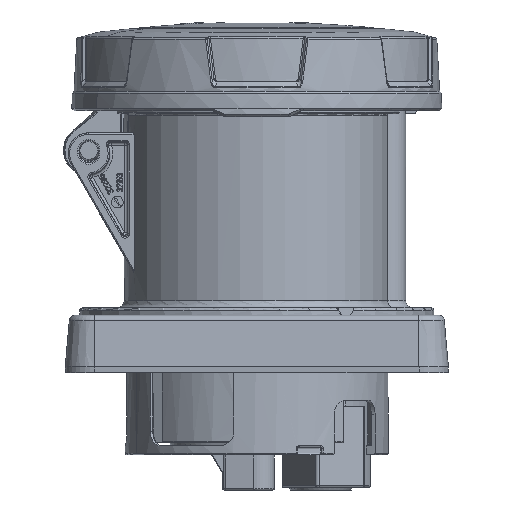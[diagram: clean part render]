
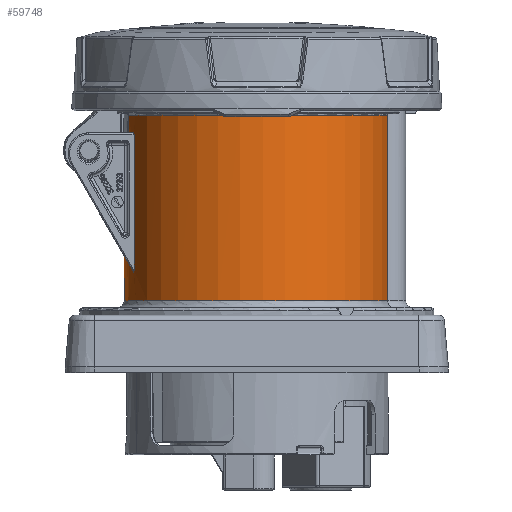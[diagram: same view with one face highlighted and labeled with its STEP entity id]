
A CAD part, left-side view. The second image highlights one B-rep face of the part: STEP entity #59748.
In plain terms, the highlighted cylindrical face has radius 45 mm (diameter 90 mm), a partial arc.
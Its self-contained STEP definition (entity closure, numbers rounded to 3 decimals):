
#312=DIRECTION('',(0.,0.,1.));
#313=VECTOR('',#312,6.);
#314=CARTESIAN_POINT('',(13.2,43.02,64.9));
#315=LINE('4296',#314,#313);
#320=DIRECTION('',(0.,0.,1.));
#321=VECTOR('',#320,62.9);
#322=CARTESIAN_POINT('',(-7.37,-44.392,8.));
#323=LINE('3004',#322,#321);
#327=DIRECTION('',(0.,0.,1.));
#328=VECTOR('',#327,62.9);
#329=CARTESIAN_POINT('',(7.37,-44.392,8.));
#330=LINE('3005',#329,#328);
#354=CARTESIAN_POINT('',(0.,0.,70.9));
#355=DIRECTION('',(0.,0.,-1.));
#356=DIRECTION('',(0.293,0.956,0.));
#357=AXIS2_PLACEMENT_3D('',#354,#355,#356);
#362=CARTESIAN_POINT('',(7.37,-44.392,70.9));
#13967=CARTESIAN_POINT('',(-7.37,-44.392,70.9));
#13972=CARTESIAN_POINT('',(0.,0.,70.9));
#13973=DIRECTION('',(0.,0.,-1.));
#13974=DIRECTION('',(-0.164,-0.986,0.));
#13975=AXIS2_PLACEMENT_3D('',#13972,#13973,#13974);
#14000=DIRECTION('',(0.,0.,-1.));
#14001=VECTOR('',#14000,6.);
#14002=CARTESIAN_POINT('',(-11.2,43.584,70.9));
#14003=LINE('3003',#14002,#14001);
#14030=CARTESIAN_POINT('',(0.,0.,64.9));
#14031=DIRECTION('',(0.,0.,1.));
#14032=DIRECTION('',(-0.249,0.969,0.));
#14033=AXIS2_PLACEMENT_3D('',#14030,#14031,#14032);
#14267=CARTESIAN_POINT('',(-16.5,41.866,17.687));
#14268=CARTESIAN_POINT('',(-13.75,42.95,19.564));
#14269=CARTESIAN_POINT('',(-8.25,44.5,22.249));
#14270=CARTESIAN_POINT('',(0.,45.25,23.549));
#14271=CARTESIAN_POINT('',(8.25,44.5,22.249));
#14272=CARTESIAN_POINT('',(13.75,42.95,19.564));
#14273=CARTESIAN_POINT('',(16.5,41.866,17.687));
#14292=CARTESIAN_POINT('',(16.5,41.866,17.687));
#14293=CARTESIAN_POINT('',(16.531,41.854,17.666));
#14294=CARTESIAN_POINT('',(16.592,41.829,17.635));
#14295=CARTESIAN_POINT('',(16.682,41.794,17.624));
#14296=CARTESIAN_POINT('',(16.764,41.761,17.649));
#14297=CARTESIAN_POINT('',(16.836,41.732,17.707));
#14298=CARTESIAN_POINT('',(16.896,41.707,17.795));
#14299=CARTESIAN_POINT('',(16.943,41.689,17.905));
#14300=CARTESIAN_POINT('',(16.975,41.675,18.033));
#14301=CARTESIAN_POINT('',(16.995,41.667,18.177));
#14302=CARTESIAN_POINT('',(17.,41.665,18.284));
#14303=CARTESIAN_POINT('',(17.,41.665,18.34));
#14308=DIRECTION('',(0.,0.,-1.));
#14309=VECTOR('',#14308,46.06);
#14310=CARTESIAN_POINT('',(17.,41.665,64.4));
#14311=LINE('2833',#14310,#14309);
#14322=CARTESIAN_POINT('',(17.,41.665,64.4));
#14323=CARTESIAN_POINT('',(17.,41.665,64.45));
#14324=CARTESIAN_POINT('',(16.985,41.672,64.551));
#14325=CARTESIAN_POINT('',(16.917,41.699,64.69));
#14326=CARTESIAN_POINT('',(16.808,41.743,64.805));
#14327=CARTESIAN_POINT('',(16.664,41.801,64.882));
#14328=CARTESIAN_POINT('',(16.555,41.844,64.9));
#14329=CARTESIAN_POINT('',(16.5,41.866,64.9));
#14371=CARTESIAN_POINT('',(0.,0.,64.9));
#14372=DIRECTION('',(0.,0.,1.));
#14373=DIRECTION('',(0.367,0.93,0.));
#14374=AXIS2_PLACEMENT_3D('',#14371,#14372,#14373);
#19444=DIRECTION('',(0.,0.,1.));
#19445=VECTOR('',#19444,46.06);
#19446=CARTESIAN_POINT('',(-17.,41.665,18.34));
#19447=LINE('2869',#19446,#19445);
#19458=CARTESIAN_POINT('',(-17.,41.665,18.34));
#19459=CARTESIAN_POINT('',(-17.,41.665,18.284));
#19460=CARTESIAN_POINT('',(-16.995,41.667,
18.177));
#19461=CARTESIAN_POINT('',(-16.975,41.675,
18.033));
#19462=CARTESIAN_POINT('',(-16.943,41.689,
17.905));
#19463=CARTESIAN_POINT('',(-16.896,41.707,
17.795));
#19464=CARTESIAN_POINT('',(-16.836,41.732,
17.707));
#19465=CARTESIAN_POINT('',(-16.764,41.761,
17.649));
#19466=CARTESIAN_POINT('',(-16.682,41.794,
17.624));
#19467=CARTESIAN_POINT('',(-16.592,41.829,
17.635));
#19468=CARTESIAN_POINT('',(-16.531,41.854,
17.666));
#19469=CARTESIAN_POINT('',(-16.5,41.866,17.687));
#19534=CARTESIAN_POINT('',(-16.5,41.866,64.9));
#19535=CARTESIAN_POINT('',(-16.555,41.844,64.9));
#19536=CARTESIAN_POINT('',(-16.664,41.801,
64.882));
#19537=CARTESIAN_POINT('',(-16.808,41.743,
64.805));
#19538=CARTESIAN_POINT('',(-16.917,41.699,
64.69));
#19539=CARTESIAN_POINT('',(-16.985,41.672,
64.551));
#19540=CARTESIAN_POINT('',(-17.,41.665,64.45));
#19541=CARTESIAN_POINT('',(-17.,41.665,64.4));
#52207=CARTESIAN_POINT('',(0.,0.,8.));
#52208=DIRECTION('',(0.,0.,-1.));
#52209=DIRECTION('',(-0.164,-0.986,0.));
#52210=AXIS2_PLACEMENT_3D('',#52207,#52208,#52209);
#52301=CARTESIAN_POINT('',(17.,41.665,18.34));
#52303=VERTEX_POINT('',#52301);
#52305=CARTESIAN_POINT('',(16.5,41.866,17.687));
#52307=VERTEX_POINT('',#52305);
#52313=CARTESIAN_POINT('',(17.,41.665,64.4));
#52314=VERTEX_POINT('',#52313);
#52315=CARTESIAN_POINT('',(16.5,41.866,64.9));
#52316=VERTEX_POINT('',#52315);
#52329=VERTEX_POINT('',#14267);
#52340=CARTESIAN_POINT('',(-11.2,43.584,64.9));
#52341=VERTEX_POINT('',#52340);
#52343=CARTESIAN_POINT('',(-17.,41.665,18.34));
#52345=VERTEX_POINT('',#52343);
#52352=CARTESIAN_POINT('',(-17.,41.665,64.4));
#52353=VERTEX_POINT('',#52352);
#52354=CARTESIAN_POINT('',(-16.5,41.866,64.9));
#52355=VERTEX_POINT('',#52354);
#52487=CARTESIAN_POINT('',(-7.37,-44.392,8.));
#52488=CARTESIAN_POINT('',(7.37,-44.392,8.));
#52489=VERTEX_POINT('',#52487);
#52490=VERTEX_POINT('',#52488);
#52495=VERTEX_POINT('',#362);
#52498=VERTEX_POINT('',#13967);
#52499=CARTESIAN_POINT('',(-11.2,43.584,70.9));
#52500=VERTEX_POINT('',#52499);
#54155=CARTESIAN_POINT('',(13.2,43.02,70.9));
#54156=VERTEX_POINT('',#54155);
#54198=CARTESIAN_POINT('',(13.2,43.02,64.9));
#54199=VERTEX_POINT('',#54198);
#59709=CARTESIAN_POINT('',(0.,0.,-11.68));
#59710=DIRECTION('',(0.,0.,1.));
#59711=DIRECTION('',(0.,-1.,0.));
#59712=AXIS2_PLACEMENT_3D('',#59709,#59710,#59711);
#59713=CYLINDRICAL_SURFACE('395',#59712,45.);
#59715=ORIENTED_EDGE('4250',*,*,#59714,.F.);
#59717=ORIENTED_EDGE('4296',*,*,#59716,.F.);
#59719=ORIENTED_EDGE('4299',*,*,#59718,.F.);
#59721=ORIENTED_EDGE('2837',*,*,#59720,.F.);
#59723=ORIENTED_EDGE('2833',*,*,#59722,.T.);
#59725=ORIENTED_EDGE('2836',*,*,#59724,.F.);
#59727=ORIENTED_EDGE('2848',*,*,#59726,.F.);
#59729=ORIENTED_EDGE('2873',*,*,#59728,.F.);
#59731=ORIENTED_EDGE('2869',*,*,#59730,.T.);
#59733=ORIENTED_EDGE('2872',*,*,#59732,.F.);
#59735=ORIENTED_EDGE('2876',*,*,#59734,.F.);
#59737=ORIENTED_EDGE('3003',*,*,#59736,.F.);
#59739=ORIENTED_EDGE('3002',*,*,#59738,.F.);
#59741=ORIENTED_EDGE('3004',*,*,#59740,.F.);
#59743=ORIENTED_EDGE('2995',*,*,#59742,.T.);
#59745=ORIENTED_EDGE('3005',*,*,#59744,.T.);
#59746=EDGE_LOOP('395',(#59715,#59717,#59719,#59721,#59723,#59725,#59727,#59729,
#59731,#59733,#59735,#59737,#59739,#59741,#59743,#59745));
#59747=FACE_OUTER_BOUND('395',#59746,.F.);
#358=CIRCLE('4250',#357,45.);
#13976=CIRCLE('3002',#13975,45.);
#14034=CIRCLE('2876',#14033,45.);
#14274=B_SPLINE_CURVE_WITH_KNOTS('2848',3,(#14267,#14268,#14269,#14270,#14271,
#14272,#14273),.UNSPECIFIED.,.F.,.F.,(4,1,1,1,4),(0.,0.25,0.5,0.75,
1.),.UNSPECIFIED.);
#14304=B_SPLINE_CURVE_WITH_KNOTS('2836',3,(#14292,#14293,#14294,#14295,#14296,
#14297,#14298,#14299,#14300,#14301,#14302,#14303),.UNSPECIFIED.,.F.,.F.,(4,1,1,
1,1,1,1,1,1,4),(0.,0.111,0.222,0.333,
0.444,0.556,0.667,0.778,
0.889,1.),.UNSPECIFIED.);
#14330=B_SPLINE_CURVE_WITH_KNOTS('2837',3,(#14322,#14323,#14324,#14325,#14326,
#14327,#14328,#14329),.UNSPECIFIED.,.F.,.F.,(4,1,1,1,1,4),(0.,0.2,0.4,
0.6,0.8,1.),.UNSPECIFIED.);
#14375=CIRCLE('4299',#14374,45.);
#19470=B_SPLINE_CURVE_WITH_KNOTS('2873',3,(#19458,#19459,#19460,#19461,#19462,
#19463,#19464,#19465,#19466,#19467,#19468,#19469),.UNSPECIFIED.,.F.,.F.,(4,1,1,
1,1,1,1,1,1,4),(0.,0.111,0.222,0.333,
0.444,0.556,0.667,0.778,
0.889,1.),.UNSPECIFIED.);
#19542=B_SPLINE_CURVE_WITH_KNOTS('2872',3,(#19534,#19535,#19536,#19537,#19538,
#19539,#19540,#19541),.UNSPECIFIED.,.F.,.F.,(4,1,1,1,1,4),(0.,0.2,0.4,
0.6,0.8,1.),.UNSPECIFIED.);
#52211=CIRCLE('2995',#52210,45.);
#59714=EDGE_CURVE('4250',#54156,#52495,#358,.T.);
#59716=EDGE_CURVE('4296',#54199,#54156,#315,.T.);
#59718=EDGE_CURVE('4299',#52316,#54199,#14375,.T.);
#59720=EDGE_CURVE('2837',#52314,#52316,#14330,.T.);
#59722=EDGE_CURVE('2833',#52314,#52303,#14311,.T.);
#59724=EDGE_CURVE('2836',#52307,#52303,#14304,.T.);
#59726=EDGE_CURVE('2848',#52329,#52307,#14274,.T.);
#59728=EDGE_CURVE('2873',#52345,#52329,#19470,.T.);
#59730=EDGE_CURVE('2869',#52345,#52353,#19447,.T.);
#59732=EDGE_CURVE('2872',#52355,#52353,#19542,.T.);
#59734=EDGE_CURVE('2876',#52341,#52355,#14034,.T.);
#59736=EDGE_CURVE('3003',#52500,#52341,#14003,.T.);
#59738=EDGE_CURVE('3002',#52498,#52500,#13976,.T.);
#59740=EDGE_CURVE('3004',#52489,#52498,#323,.T.);
#59742=EDGE_CURVE('2995',#52489,#52490,#52211,.T.);
#59744=EDGE_CURVE('3005',#52490,#52495,#330,.T.);
#59748=ADVANCED_FACE('395',(#59747),#59713,.T.);
